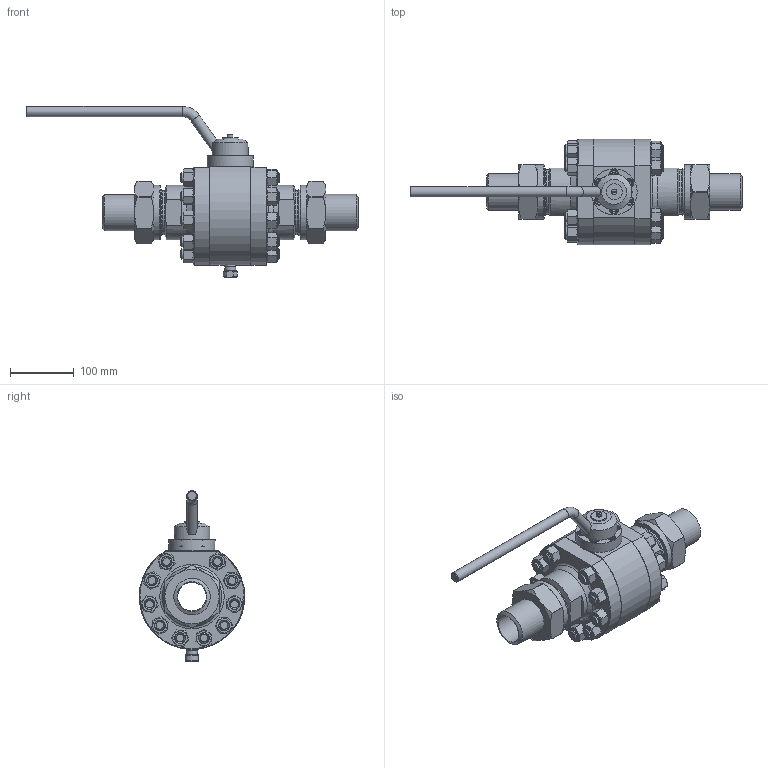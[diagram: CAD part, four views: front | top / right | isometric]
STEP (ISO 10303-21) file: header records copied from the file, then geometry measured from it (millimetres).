
FILE_DESCRIPTION(('STEP AP203'), '1');
FILE_NAME('ZARD 050.080.30.P.stp', '2013-12-06T07:32:35', ('Øèøêî'), ('ÎÎÎ ÈÊ Ýíåðïðåä-ßðäîñ'), 'ASCON STEP Converter 1.3', 'Kompas 3D', '');
FILE_SCHEMA(('CONFIG_CONTROL_DESIGN','SUPPORT_RESOURCE_SCHEMA'));
Length unit declared in the file: millimetre
Products named in the file (1): 154
Bounding box: 519.31 x 165 x 267.5 mm (x, y, z)
Volume: 3049002 mm3; surface area: 419737.6 mm2
Topology: 1 solids, 25 shells, 831 faces, 1781 edges, 1110 vertices
Faces by surface type: plane 441, cone 205, cylinder 178, torus 7
Full cylindrical faces by diameter (mm): 5 x1, 5.3 x1, 6 x6, 8 x8, 8.376 x6, 8.5 x1, 9 x6, 13 x6, 14 x6, 14.141 x1, 16 x42, 17 x20, 17.33 x1, 24.8 x1, 25 x3, 35 x1, 35.5 x1, 45 x4, 56 x1, 57 x2, 62 x2, 69 x2, 69.835 x2, 72 x3, 84 x3, 85 x4, 98 x2
Entity records: 35361 total; most frequent: CARTESIAN_POINT 17479, DIRECTION 3745, ORIENTED_EDGE 3550, EDGE_CURVE 1775, AXIS2_PLACEMENT_3D 1523, VERTEX_POINT 1110, EDGE_LOOP 968, ADVANCED_FACE 831
